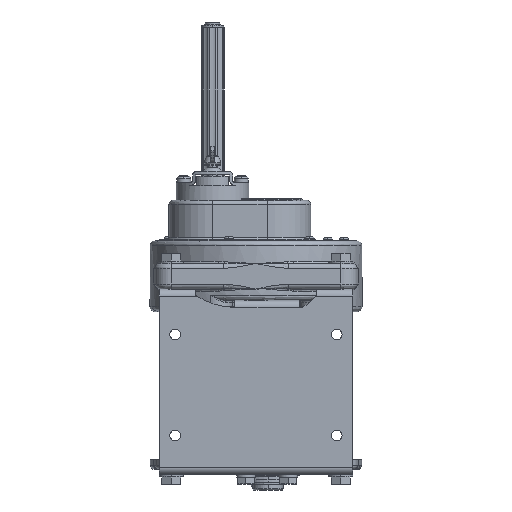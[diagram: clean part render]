
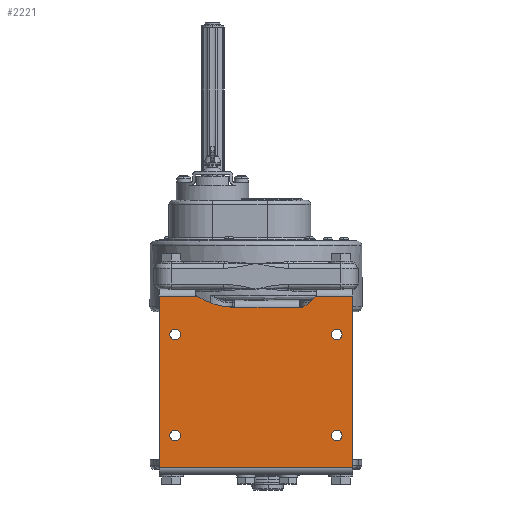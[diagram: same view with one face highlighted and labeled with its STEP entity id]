
A CAD part, front view. The second image highlights one B-rep face of the part: STEP entity #2221.
In plain terms, the highlighted planar face has unit normal (0, -1, 0).
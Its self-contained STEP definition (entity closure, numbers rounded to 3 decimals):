
#2221=ADVANCED_FACE('',(#24135,#24136,#24137,#24138,#24139),#24134,.T.);
#24134=PLANE('',#47718);
#24135=FACE_OUTER_BOUND('',#47719,.T.);
#24136=FACE_BOUND('',#47720,.T.);
#24137=FACE_BOUND('',#47721,.T.);
#24138=FACE_BOUND('',#47722,.T.);
#24139=FACE_BOUND('',#47723,.T.);
#47715=CARTESIAN_POINT('',(11.,-36.383,-212.1));
#47716=DIRECTION('',(0.,-1.,0.));
#47717=DIRECTION('',(0.,0.,1.));
#47718=AXIS2_PLACEMENT_3D('',#47715,#47716,#47717);
#47719=EDGE_LOOP('',(#64414,#64415,#64416,#64417,#64418,#64419,#64420,#64421,#64422,#64423));
#47720=EDGE_LOOP('',(#64424,#64425));
#47721=EDGE_LOOP('',(#64426,#64427));
#47722=EDGE_LOOP('',(#64428,#64429));
#47723=EDGE_LOOP('',(#64430,#64431));
#64414=ORIENTED_EDGE('',*,*,#73748,.T.);
#64415=ORIENTED_EDGE('',*,*,#68724,.T.);
#64416=ORIENTED_EDGE('',*,*,#73749,.T.);
#64417=ORIENTED_EDGE('',*,*,#68734,.T.);
#64418=ORIENTED_EDGE('',*,*,#73750,.T.);
#64419=ORIENTED_EDGE('',*,*,#73751,.T.);
#64420=ORIENTED_EDGE('',*,*,#73752,.T.);
#64421=ORIENTED_EDGE('',*,*,#73753,.F.);
#64422=ORIENTED_EDGE('',*,*,#69254,.F.);
#64423=ORIENTED_EDGE('',*,*,#73754,.T.);
#64424=ORIENTED_EDGE('',*,*,#73755,.F.);
#64425=ORIENTED_EDGE('',*,*,#73756,.F.);
#64426=ORIENTED_EDGE('',*,*,#73757,.F.);
#64427=ORIENTED_EDGE('',*,*,#73758,.F.);
#64428=ORIENTED_EDGE('',*,*,#73759,.F.);
#64429=ORIENTED_EDGE('',*,*,#73760,.F.);
#64430=ORIENTED_EDGE('',*,*,#73761,.F.);
#64431=ORIENTED_EDGE('',*,*,#73762,.F.);
#68724=EDGE_CURVE('',#81778,#81771,#81779,.T.);
#68734=EDGE_CURVE('',#81799,#81841,#81848,.T.);
#69254=EDGE_CURVE('',#85330,#85331,#85332,.T.);
#73748=EDGE_CURVE('',#115146,#81778,#115147,.T.);
#73749=EDGE_CURVE('',#81771,#81799,#115153,.T.);
#73750=EDGE_CURVE('',#81841,#115159,#115160,.T.);
#73751=EDGE_CURVE('',#115159,#115166,#115167,.T.);
#73752=EDGE_CURVE('',#115166,#115173,#115174,.T.);
#73753=EDGE_CURVE('',#85331,#115173,#115180,.T.);
#73754=EDGE_CURVE('',#85330,#115146,#115186,.T.);
#73755=EDGE_CURVE('',#115192,#115193,#115194,.T.);
#73756=EDGE_CURVE('',#115193,#115192,#115200,.T.);
#73757=EDGE_CURVE('',#115206,#115207,#115208,.T.);
#73758=EDGE_CURVE('',#115207,#115206,#115214,.T.);
#73759=EDGE_CURVE('',#115220,#115221,#115222,.T.);
#73760=EDGE_CURVE('',#115221,#115220,#115228,.T.);
#73761=EDGE_CURVE('',#115234,#115235,#115236,.T.);
#73762=EDGE_CURVE('',#115235,#115234,#115242,.T.);
#81771=VERTEX_POINT('',#126468);
#81778=VERTEX_POINT('',#126472);
#81779=CIRCLE('',#126476,30.);
#81799=VERTEX_POINT('',#126486);
#81841=VERTEX_POINT('',#126525);
#81848=LINE('',#126542,#126543);
#85330=VERTEX_POINT('',#129299);
#85331=VERTEX_POINT('',#129300);
#85332=LINE('',#129301,#129302);
#115146=VERTEX_POINT('',#149807);
#115147=LINE('',#149808,#149809);
#115153=CIRCLE('',#149814,2.);
#115159=VERTEX_POINT('',#149815);
#115160=CIRCLE('',#149819,2.);
#115166=VERTEX_POINT('',#149820);
#115167=CIRCLE('',#149824,70.);
#115173=VERTEX_POINT('',#149825);
#115174=LINE('',#149826,#149827);
#115180=LINE('',#149829,#149830);
#115186=LINE('',#149832,#149833);
#115192=VERTEX_POINT('',#149835);
#115193=VERTEX_POINT('',#149836);
#115194=CIRCLE('',#149840,5.25);
#115200=CIRCLE('',#149844,5.25);
#115206=VERTEX_POINT('',#149845);
#115207=VERTEX_POINT('',#149846);
#115208=CIRCLE('',#149850,5.25);
#115214=CIRCLE('',#149854,5.25);
#115220=VERTEX_POINT('',#149855);
#115221=VERTEX_POINT('',#149856);
#115222=CIRCLE('',#149860,5.25);
#115228=CIRCLE('',#149864,5.25);
#115234=VERTEX_POINT('',#149865);
#115235=VERTEX_POINT('',#149866);
#115236=CIRCLE('',#149870,5.25);
#115242=CIRCLE('',#149874,5.25);
#126468=CARTESIAN_POINT('',(-49.234,-36.383,-43.247));
#126472=CARTESIAN_POINT('',(-35.917,-36.383,-32.4));
#126473=CARTESIAN_POINT('',(-60.73,-36.383,-15.537));
#126474=DIRECTION('',(0.,1.,0.));
#126475=DIRECTION('',(0.,0.,-1.));
#126476=AXIS2_PLACEMENT_3D('',#126473,#126474,#126475);
#126486=CARTESIAN_POINT('',(-50.,-36.383,-43.4));
#126525=CARTESIAN_POINT('',(-118.,-36.383,-43.4));
#126542=CARTESIAN_POINT('',(-50.,-36.383,-43.4));
#126543=VECTOR('',#126544,68.);
#126544=DIRECTION('',(-1.,0.,0.));
#129299=CARTESIAN_POINT('',(1.,-36.383,-202.1));
#129300=CARTESIAN_POINT('',(-191.,-36.383,-202.1));
#129301=CARTESIAN_POINT('',(1.,-36.383,-202.1));
#129302=VECTOR('',#129303,192.);
#129303=DIRECTION('',(-1.,0.,0.));
#149807=CARTESIAN_POINT('',(1.,-36.383,-32.4));
#149808=CARTESIAN_POINT('',(1.,-36.383,-32.4));
#149809=VECTOR('',#149810,36.917);
#149810=DIRECTION('',(-1.,0.,0.));
#149811=CARTESIAN_POINT('',(-50.,-36.383,-41.4));
#149812=DIRECTION('',(0.,1.,0.));
#149813=DIRECTION('',(0.,0.,-1.));
#149814=AXIS2_PLACEMENT_3D('',#149811,#149812,#149813);
#149815=CARTESIAN_POINT('',(-118.063,-36.383,-43.399));
#149816=CARTESIAN_POINT('',(-118.,-36.383,-41.4));
#149817=DIRECTION('',(0.,1.,0.));
#149818=DIRECTION('',(0.,0.,-1.));
#149819=AXIS2_PLACEMENT_3D('',#149816,#149817,#149818);
#149820=CARTESIAN_POINT('',(-153.59,-36.383,-32.4));
#149821=CARTESIAN_POINT('',(-115.868,-36.383,26.567));
#149822=DIRECTION('',(0.,1.,0.));
#149823=DIRECTION('',(0.,0.,-1.));
#149824=AXIS2_PLACEMENT_3D('',#149821,#149822,#149823);
#149825=CARTESIAN_POINT('',(-191.,-36.383,-32.4));
#149826=CARTESIAN_POINT('',(-153.59,-36.383,-32.4));
#149827=VECTOR('',#149828,37.41);
#149828=DIRECTION('',(-1.,0.,0.));
#149829=CARTESIAN_POINT('',(-191.,-36.383,-202.1));
#149830=VECTOR('',#149831,169.7);
#149831=DIRECTION('',(0.,0.,1.));
#149832=CARTESIAN_POINT('',(1.,-36.383,-202.1));
#149833=VECTOR('',#149834,169.7);
#149834=DIRECTION('',(0.,0.,1.));
#149835=CARTESIAN_POINT('',(-15.,-36.383,-75.65));
#149836=CARTESIAN_POINT('',(-15.,-36.383,-65.15));
#149837=CARTESIAN_POINT('',(-15.,-36.383,-70.4));
#149838=DIRECTION('',(0.,-1.,0.));
#149839=DIRECTION('',(0.,0.,1.));
#149840=AXIS2_PLACEMENT_3D('',#149837,#149838,#149839);
#149841=CARTESIAN_POINT('',(-15.,-36.383,-70.4));
#149842=DIRECTION('',(0.,-1.,0.));
#149843=DIRECTION('',(0.,0.,1.));
#149844=AXIS2_PLACEMENT_3D('',#149841,#149842,#149843);
#149845=CARTESIAN_POINT('',(-175.,-36.383,-75.65));
#149846=CARTESIAN_POINT('',(-175.,-36.383,-65.15));
#149847=CARTESIAN_POINT('',(-175.,-36.383,-70.4));
#149848=DIRECTION('',(0.,-1.,0.));
#149849=DIRECTION('',(0.,0.,1.));
#149850=AXIS2_PLACEMENT_3D('',#149847,#149848,#149849);
#149851=CARTESIAN_POINT('',(-175.,-36.383,-70.4));
#149852=DIRECTION('',(0.,-1.,0.));
#149853=DIRECTION('',(0.,0.,1.));
#149854=AXIS2_PLACEMENT_3D('',#149851,#149852,#149853);
#149855=CARTESIAN_POINT('',(-175.,-36.383,-175.65));
#149856=CARTESIAN_POINT('',(-175.,-36.383,-165.15));
#149857=CARTESIAN_POINT('',(-175.,-36.383,-170.4));
#149858=DIRECTION('',(0.,-1.,0.));
#149859=DIRECTION('',(0.,0.,1.));
#149860=AXIS2_PLACEMENT_3D('',#149857,#149858,#149859);
#149861=CARTESIAN_POINT('',(-175.,-36.383,-170.4));
#149862=DIRECTION('',(0.,-1.,0.));
#149863=DIRECTION('',(0.,0.,1.));
#149864=AXIS2_PLACEMENT_3D('',#149861,#149862,#149863);
#149865=CARTESIAN_POINT('',(-15.,-36.383,-175.65));
#149866=CARTESIAN_POINT('',(-15.,-36.383,-165.15));
#149867=CARTESIAN_POINT('',(-15.,-36.383,-170.4));
#149868=DIRECTION('',(0.,-1.,0.));
#149869=DIRECTION('',(0.,0.,1.));
#149870=AXIS2_PLACEMENT_3D('',#149867,#149868,#149869);
#149871=CARTESIAN_POINT('',(-15.,-36.383,-170.4));
#149872=DIRECTION('',(0.,-1.,0.));
#149873=DIRECTION('',(0.,0.,1.));
#149874=AXIS2_PLACEMENT_3D('',#149871,#149872,#149873);
